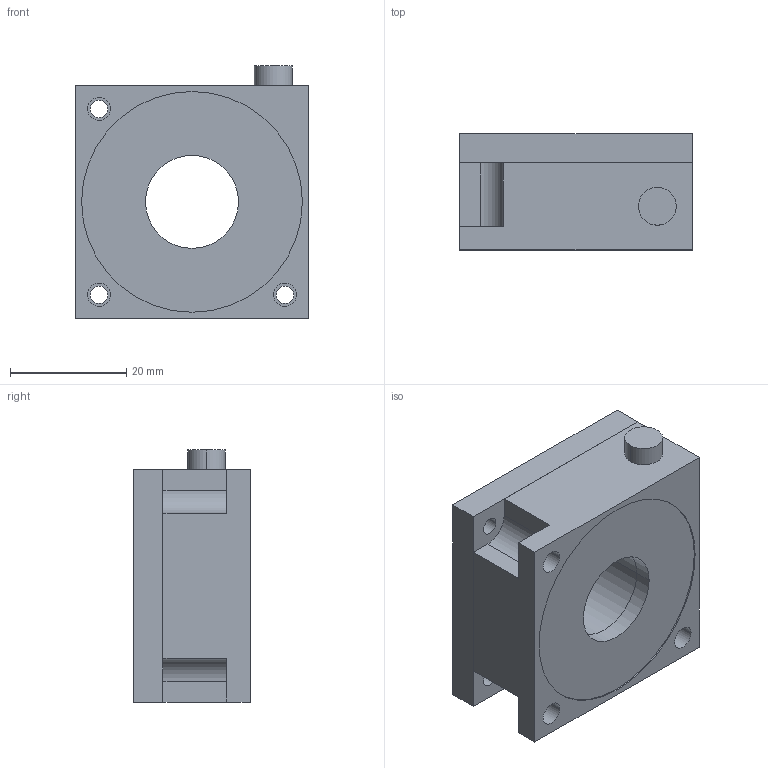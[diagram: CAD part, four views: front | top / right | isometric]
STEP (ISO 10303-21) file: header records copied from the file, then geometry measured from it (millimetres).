
FILE_DESCRIPTION (( 'STEP AP203' ), '1' );
FILE_NAME ('RS-P4051FX.STEP', '2018-06-25T02:21:39', ( '' ), ( '' ), 'SwSTEP 2.0', 'SolidWorks 2016', '' );
FILE_SCHEMA (( 'CONFIG_CONTROL_DESIGN' ));
Length unit declared in the file: millimetre
Products named in the file (3): RS-P4051FX-1; RS-P4051FX-2; RS-P4051FX
Assembly tree (2 placements, depth 2):
  RS-P4051FX
    RS-P4051FX-1
    RS-P4051FX-2
Bounding box: 40 x 20 x 43.4 mm (x, y, z)
Volume: 25702.8 mm3; surface area: 12933.6 mm2
Topology: 2 solids, 2 shells, 66 faces, 162 edges, 108 vertices
Faces by surface type: cylinder 37, plane 29
Entity records: 2339 total; most frequent: DIRECTION 374, CARTESIAN_POINT 365, ORIENTED_EDGE 324, EDGE_CURVE 162, AXIS2_PLACEMENT_3D 143, VERTEX_POINT 108, EDGE_LOOP 92, VECTOR 88
